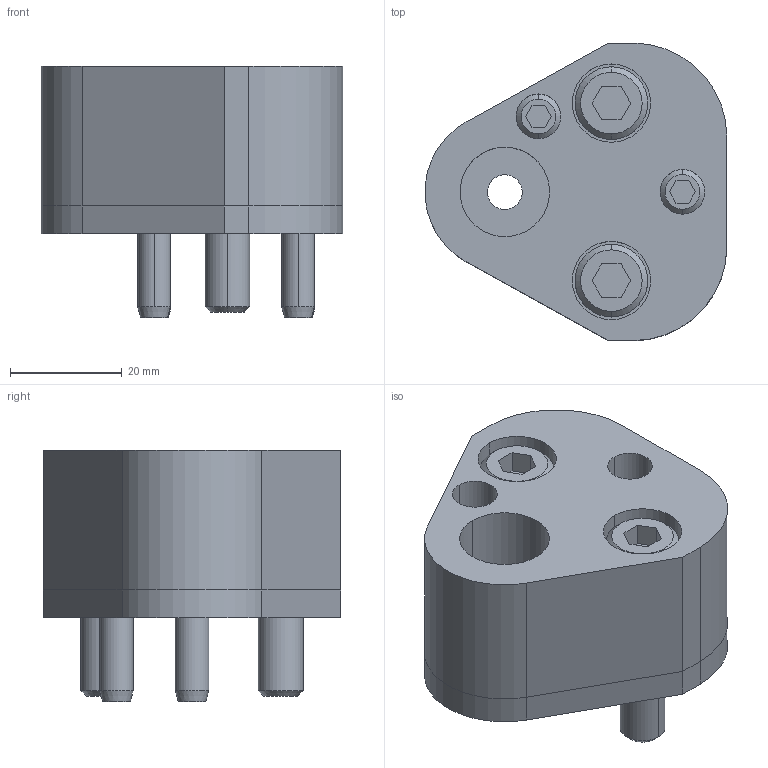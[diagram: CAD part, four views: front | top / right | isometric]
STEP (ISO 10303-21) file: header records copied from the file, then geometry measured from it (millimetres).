
FILE_DESCRIPTION(/* description */ (''),/* implementation_level */ '2;1');
FILE_NAME(/* name */ '3d_25crn-ap16_03129_r00.stp',/* time_stamp */ '2011-01-10T14:17:54+09:00',/* author */ ('MISUMI'),/* organization */ (''),/* preprocessor_version */ 'ST-DEVELOPER v11',/* originating_system */ 'UGS - NX 5.0',/* authorisation */ '');
FILE_SCHEMA (('CONFIG_CONTROL_DESIGN'));
Length unit declared in the file: millimetre
Products named in the file (1): 3d_25crn-ap16_03129_r00
Bounding box: 53.95 x 53.2 x 45 mm (x, y, z)
Volume: 57712.4 mm3; surface area: 22194.2 mm2
Topology: 8 solids, 8 shells, 155 faces, 348 edges, 224 vertices
Faces by surface type: plane 67, cylinder 62, cone 26
Entity records: 4494 total; most frequent: DIRECTION 804, CARTESIAN_POINT 782, ORIENTED_EDGE 696, EDGE_CURVE 348, AXIS2_PLACEMENT_3D 306, VERTEX_POINT 224, LINE 192, VECTOR 192
